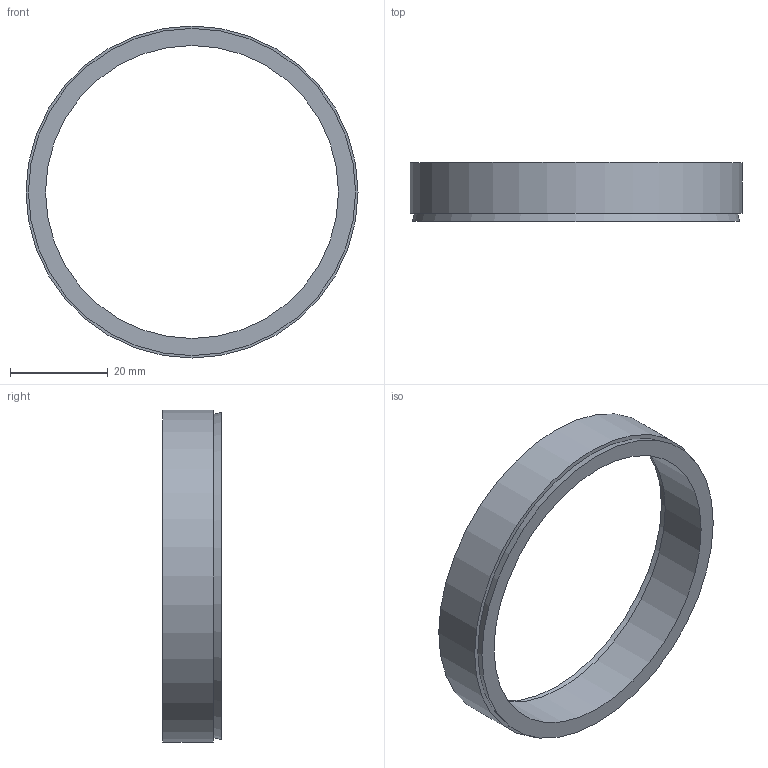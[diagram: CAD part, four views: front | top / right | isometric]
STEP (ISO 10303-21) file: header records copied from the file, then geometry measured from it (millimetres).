
FILE_DESCRIPTION( ( 'Unknown' ), '1' );
FILE_NAME( 'C:/Dokumente und Einstellungen/Sven/Desktop/homepage/cad - homepage/KBS50/KBS 50 - 60 x 68.stp', 'Unknown', ( 'Unknown' ), ( 'Unknown' ), 'XStep 1.0', 'Unknown', ' ' );
FILE_SCHEMA( ( 'automotive_design' ) );
Length unit declared in the file: millimetre
Products named in the file (1): 1
Bounding box: 68 x 12 x 68 mm (x, y, z)
Volume: 9200.6 mm3; surface area: 6614.6 mm2
Topology: 1 solids, 1 shells, 8 faces, 12 edges, 8 vertices
Faces by surface type: plane 4, cylinder 2, cone 2
Full cylindrical faces by diameter (mm): 60 x1, 68 x1
Entity records: 248 total; most frequent: DIRECTION 34, CARTESIAN_POINT 25, AXIS2_PLACEMENT_3D 17, EDGE_LOOP 16, ORIENTED_EDGE 16, FACE_OUTER_BOUND 10, STYLED_ITEM 8, PRESENTATION_STYLE_ASSIGNMENT 8
